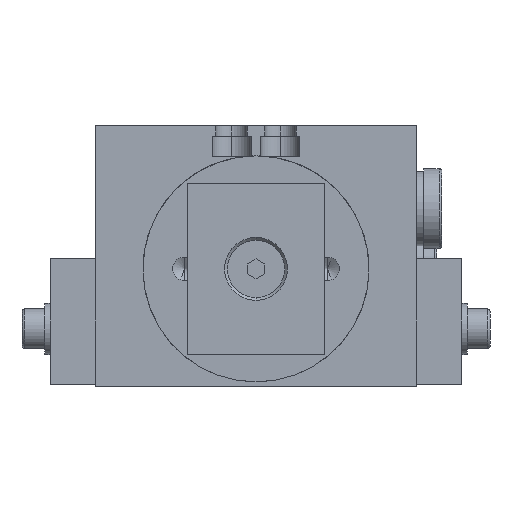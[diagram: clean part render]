
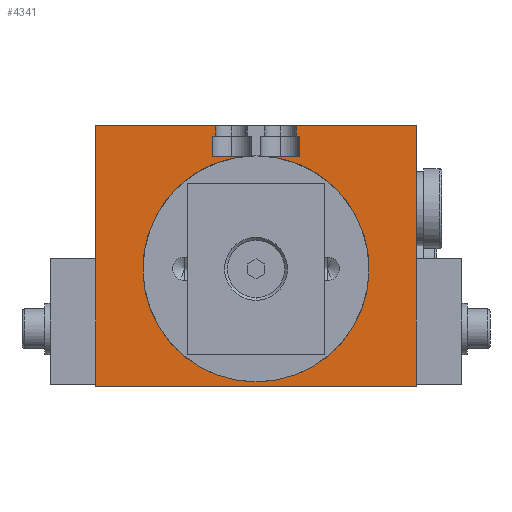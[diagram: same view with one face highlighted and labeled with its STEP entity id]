
A CAD part, front view. The second image highlights one B-rep face of the part: STEP entity #4341.
In plain terms, the highlighted planar face has unit normal (0, -1, 0).
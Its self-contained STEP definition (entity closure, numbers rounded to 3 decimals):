
#422 = CARTESIAN_POINT ( 'NONE',  ( 29.404, 0., 40.2 ) ) ;
#423 = DIRECTION ( 'NONE',  ( 0., 0., -1. ) ) ;
#424 = DIRECTION ( 'NONE',  ( 0., -1., 0. ) ) ;
#425 = CARTESIAN_POINT ( 'NONE',  ( 28., 0., 20.5 ) ) ;
#426 = AXIS2_PLACEMENT_3D ( 'NONE', #425, #424, #423 ) ;
#427 = CIRCLE ( 'NONE', #426, 19.75 ) ;
#1306 = DIRECTION ( 'NONE',  ( 0., 0., -1. ) ) ;
#1307 = VECTOR ( 'NONE', #1306, 1000. ) ;
#1308 = CARTESIAN_POINT ( 'NONE',  ( 0., 0., 45.5 ) ) ;
#1309 = LINE ( 'NONE', #1308, #1307 ) ;
#1398 = CARTESIAN_POINT ( 'NONE',  ( 56., 0., 0. ) ) ;
#1399 = CARTESIAN_POINT ( 'NONE',  ( 56., 0., 0.3 ) ) ;
#1416 = CARTESIAN_POINT ( 'NONE',  ( 28., 0., 0.75 ) ) ;
#1456 = CARTESIAN_POINT ( 'NONE',  ( 56., 0., 45.5 ) ) ;
#1468 = CARTESIAN_POINT ( 'NONE',  ( 56., 0., 22.3 ) ) ;
#1559 = DIRECTION ( 'NONE',  ( 0., 0., -1. ) ) ;
#1560 = VECTOR ( 'NONE', #1559, 1000. ) ;
#1561 = CARTESIAN_POINT ( 'NONE',  ( 56., 0., 45.5 ) ) ;
#1562 = LINE ( 'NONE', #1561, #1560 ) ;
#1621 = DIRECTION ( 'NONE',  ( 0., 0., -1. ) ) ;
#1622 = VECTOR ( 'NONE', #1621, 1000. ) ;
#1623 = CARTESIAN_POINT ( 'NONE',  ( 56., 0., 45.5 ) ) ;
#1624 = LINE ( 'NONE', #1623, #1622 ) ;
#1630 = DIRECTION ( 'NONE',  ( 0., 0., -1. ) ) ;
#1631 = VECTOR ( 'NONE', #1630, 1000. ) ;
#1632 = CARTESIAN_POINT ( 'NONE',  ( 56., 0., 45.5 ) ) ;
#1633 = LINE ( 'NONE', #1632, #1631 ) ;
#1665 = CARTESIAN_POINT ( 'NONE',  ( 26.596, 0., 40.2 ) ) ;
#1670 = DIRECTION ( 'NONE',  ( 0., 0., -1. ) ) ;
#1671 = VECTOR ( 'NONE', #1670, 1000. ) ;
#1672 = CARTESIAN_POINT ( 'NONE',  ( 0., 0., 45.5 ) ) ;
#1673 = LINE ( 'NONE', #1672, #1671 ) ;
#1681 = DIRECTION ( 'NONE',  ( 0., 0., -1. ) ) ;
#1682 = DIRECTION ( 'NONE',  ( 0., -1., 0. ) ) ;
#1683 = CARTESIAN_POINT ( 'NONE',  ( 28., 0., 20.5 ) ) ;
#1684 = AXIS2_PLACEMENT_3D ( 'NONE', #1683, #1682, #1681 ) ;
#1685 = CIRCLE ( 'NONE', #1684, 19.75 ) ;
#1690 = CARTESIAN_POINT ( 'NONE',  ( 35.65, 0., 40.2 ) ) ;
#1691 = DIRECTION ( 'NONE',  ( 0., 0., 1. ) ) ;
#1692 = VECTOR ( 'NONE', #1691, 1000. ) ;
#1693 = CARTESIAN_POINT ( 'NONE',  ( 35.65, 0., 40.2 ) ) ;
#1697 = LINE ( 'NONE', #1745, #1744 ) ;
#1725 = CARTESIAN_POINT ( 'NONE',  ( 20.35, 0., 43.7 ) ) ;
#1726 = DIRECTION ( 'NONE',  ( 1., 0., 0. ) ) ;
#1727 = VECTOR ( 'NONE', #1726, 1000. ) ;
#1728 = LINE ( 'NONE', #1693, #1692 ) ;
#1729 = CARTESIAN_POINT ( 'NONE',  ( 35.65, 0., 43.7 ) ) ;
#1730 = DIRECTION ( 'NONE',  ( -1., 0., 0. ) ) ;
#1731 = VECTOR ( 'NONE', #1730, 1000. ) ;
#1732 = CARTESIAN_POINT ( 'NONE',  ( 35.65, 0., 43.7 ) ) ;
#1733 = LINE ( 'NONE', #1732, #1731 ) ;
#1735 = DIRECTION ( 'NONE',  ( 0., 0., -1. ) ) ;
#1736 = VECTOR ( 'NONE', #1735, 1000. ) ;
#1737 = CARTESIAN_POINT ( 'NONE',  ( 21., 0., 45.5 ) ) ;
#1744 = VECTOR ( 'NONE', #1791, 1000. ) ;
#1745 = CARTESIAN_POINT ( 'NONE',  ( 20.35, 0., 40.2 ) ) ;
#1771 = CARTESIAN_POINT ( 'NONE',  ( 21., 0., 43.7 ) ) ;
#1772 = DIRECTION ( 'NONE',  ( -1., 0., 0. ) ) ;
#1773 = VECTOR ( 'NONE', #1772, 1000. ) ;
#1774 = CARTESIAN_POINT ( 'NONE',  ( 21., 0., 43.7 ) ) ;
#1775 = LINE ( 'NONE', #1774, #1773 ) ;
#1786 = DIRECTION ( 'NONE',  ( 1., 0., 0. ) ) ;
#1787 = VECTOR ( 'NONE', #1786, 1000. ) ;
#1788 = CARTESIAN_POINT ( 'NONE',  ( 28.85, 0., 40.2 ) ) ;
#1789 = LINE ( 'NONE', #1788, #1787 ) ;
#1790 = LINE ( 'NONE', #1737, #1736 ) ;
#1791 = DIRECTION ( 'NONE',  ( 1., 0., 0. ) ) ;
#1793 = DIRECTION ( 'NONE',  ( 0., 0., -1. ) ) ;
#1794 = VECTOR ( 'NONE', #1793, 1000. ) ;
#1795 = CARTESIAN_POINT ( 'NONE',  ( 20.35, 0., 43.7 ) ) ;
#1796 = LINE ( 'NONE', #1795, #1794 ) ;
#1797 = CARTESIAN_POINT ( 'NONE',  ( 20.35, 0., 40.2 ) ) ;
#1798 = DIRECTION ( 'NONE',  ( 0., 0., 1. ) ) ;
#1799 = DIRECTION ( 'NONE',  ( 0., 1., 0. ) ) ;
#1800 = CARTESIAN_POINT ( 'NONE',  ( 0., 0., 45.5 ) ) ;
#1801 = AXIS2_PLACEMENT_3D ( 'NONE', #1800, #1799, #1798 ) ;
#1802 = PLANE ( 'NONE',  #1801 ) ;
#1803 = FACE_OUTER_BOUND ( 'NONE', #4297, .T. ) ;
#1804 = DIRECTION ( 'NONE',  ( 1., 0., 0. ) ) ;
#1805 = VECTOR ( 'NONE', #1804, 1000. ) ;
#1806 = CARTESIAN_POINT ( 'NONE',  ( 0., 0., 0. ) ) ;
#1807 = LINE ( 'NONE', #1806, #1805 ) ;
#1817 = CARTESIAN_POINT ( 'NONE',  ( 35., 0., 45.5 ) ) ;
#1821 = CARTESIAN_POINT ( 'NONE',  ( 35., 0., 43.7 ) ) ;
#1822 = DIRECTION ( 'NONE',  ( 0., 0., 1. ) ) ;
#1823 = VECTOR ( 'NONE', #1822, 1000. ) ;
#1824 = CARTESIAN_POINT ( 'NONE',  ( 0., 0., 45.5 ) ) ;
#1825 = LINE ( 'NONE', #1824, #1727 ) ;
#1835 = CARTESIAN_POINT ( 'NONE',  ( 35., 0., 43.7 ) ) ;
#1836 = LINE ( 'NONE', #1835, #1823 ) ;
#1837 = DIRECTION ( 'NONE',  ( 1., 0., 0. ) ) ;
#1838 = VECTOR ( 'NONE', #1837, 1000. ) ;
#1839 = CARTESIAN_POINT ( 'NONE',  ( 0., 0., 45.5 ) ) ;
#1844 = LINE ( 'NONE', #1839, #1838 ) ;
#2337 = CARTESIAN_POINT ( 'NONE',  ( 0., 0., 22.3 ) ) ;
#2366 = LINE ( 'NONE', #2427, #2426 ) ;
#2367 = CARTESIAN_POINT ( 'NONE',  ( 0., 0., 0.3 ) ) ;
#2425 = DIRECTION ( 'NONE',  ( 0., 0., -1. ) ) ;
#2426 = VECTOR ( 'NONE', #2425, 1000. ) ;
#2427 = CARTESIAN_POINT ( 'NONE',  ( 0., 0., 45.5 ) ) ;
#2434 = CARTESIAN_POINT ( 'NONE',  ( 0., 0., 45.5 ) ) ;
#2444 = CARTESIAN_POINT ( 'NONE',  ( 0., 0., 0. ) ) ;
#2454 = CARTESIAN_POINT ( 'NONE',  ( 21., 0., 45.5 ) ) ;
#3237 = EDGE_CURVE ( 'NONE', #4098, #3240, #427, .T. ) ;
#3240 = VERTEX_POINT ( 'NONE', #422 ) ;
#4098 = VERTEX_POINT ( 'NONE', #1416 ) ;
#4101 = VERTEX_POINT ( 'NONE', #1468 ) ;
#4118 = VERTEX_POINT ( 'NONE', #1399 ) ;
#4119 = VERTEX_POINT ( 'NONE', #1398 ) ;
#4133 = VERTEX_POINT ( 'NONE', #1456 ) ;
#4165 = EDGE_CURVE ( 'NONE', #4408, #4406, #1309, .T. ) ;
#4224 = EDGE_CURVE ( 'NONE', #4282, #4098, #1685, .T. ) ;
#4225 = ORIENTED_EDGE ( 'NONE', *, *, #4291, .F. ) ;
#4243 = EDGE_CURVE ( 'NONE', #4118, #4119, #1633, .T. ) ;
#4248 = EDGE_CURVE ( 'NONE', #4133, #4101, #1624, .T. ) ;
#4274 = ORIENTED_EDGE ( 'NONE', *, *, #4243, .F. ) ;
#4275 = ORIENTED_EDGE ( 'NONE', *, *, #4276, .F. ) ;
#4276 = EDGE_CURVE ( 'NONE', #4101, #4118, #1562, .T. ) ;
#4278 = ORIENTED_EDGE ( 'NONE', *, *, #4279, .T. ) ;
#4279 = EDGE_CURVE ( 'NONE', #4406, #4432, #1673, .T. ) ;
#4282 = VERTEX_POINT ( 'NONE', #1665 ) ;
#4291 = EDGE_CURVE ( 'NONE', #4342, #4282, #1697, .T. ) ;
#4292 = EDGE_CURVE ( 'NONE', #3240, #4311, #1789, .T. ) ;
#4293 = ORIENTED_EDGE ( 'NONE', *, *, #3237, .F. ) ;
#4295 = ORIENTED_EDGE ( 'NONE', *, *, #4296, .F. ) ;
#4296 = EDGE_CURVE ( 'NONE', #4397, #4305, #1790, .T. ) ;
#4297 = EDGE_LOOP ( 'NONE', ( #4336, #4225, #4343, #4303, #4295, #4398, #4299, #4278, #4338, #4339, #4274, #4275, #4332, #4333, #4323, #4306, #4309, #4396, #4293 ) ) ;
#4298 = EDGE_CURVE ( 'NONE', #4408, #4397, #1825, .T. ) ;
#4299 = ORIENTED_EDGE ( 'NONE', *, *, #4165, .T. ) ;
#4300 = VERTEX_POINT ( 'NONE', #1725 ) ;
#4303 = ORIENTED_EDGE ( 'NONE', *, *, #4304, .F. ) ;
#4304 = EDGE_CURVE ( 'NONE', #4305, #4300, #1775, .T. ) ;
#4305 = VERTEX_POINT ( 'NONE', #1771 ) ;
#4306 = ORIENTED_EDGE ( 'NONE', *, *, #4307, .F. ) ;
#4307 = EDGE_CURVE ( 'NONE', #4308, #4325, #1733, .T. ) ;
#4308 = VERTEX_POINT ( 'NONE', #1729 ) ;
#4309 = ORIENTED_EDGE ( 'NONE', *, *, #4310, .F. ) ;
#4310 = EDGE_CURVE ( 'NONE', #4311, #4308, #1728, .T. ) ;
#4311 = VERTEX_POINT ( 'NONE', #1690 ) ;
#4322 = EDGE_CURVE ( 'NONE', #4334, #4133, #1844, .T. ) ;
#4323 = ORIENTED_EDGE ( 'NONE', *, *, #4324, .F. ) ;
#4324 = EDGE_CURVE ( 'NONE', #4325, #4334, #1836, .T. ) ;
#4325 = VERTEX_POINT ( 'NONE', #1821 ) ;
#4332 = ORIENTED_EDGE ( 'NONE', *, *, #4248, .F. ) ;
#4333 = ORIENTED_EDGE ( 'NONE', *, *, #4322, .F. ) ;
#4334 = VERTEX_POINT ( 'NONE', #1817 ) ;
#4336 = ORIENTED_EDGE ( 'NONE', *, *, #4224, .F. ) ;
#4338 = ORIENTED_EDGE ( 'NONE', *, *, #4433, .T. ) ;
#4339 = ORIENTED_EDGE ( 'NONE', *, *, #4340, .T. ) ;
#4340 = EDGE_CURVE ( 'NONE', #4419, #4119, #1807, .T. ) ;
#4341 = ADVANCED_FACE ( 'NONE', ( #1803 ), #1802, .F. ) ;
#4342 = VERTEX_POINT ( 'NONE', #1797 ) ;
#4343 = ORIENTED_EDGE ( 'NONE', *, *, #4344, .F. ) ;
#4344 = EDGE_CURVE ( 'NONE', #4300, #4342, #1796, .T. ) ;
#4396 = ORIENTED_EDGE ( 'NONE', *, *, #4292, .F. ) ;
#4397 = VERTEX_POINT ( 'NONE', #2454 ) ;
#4398 = ORIENTED_EDGE ( 'NONE', *, *, #4298, .F. ) ;
#4406 = VERTEX_POINT ( 'NONE', #2337 ) ;
#4408 = VERTEX_POINT ( 'NONE', #2434 ) ;
#4419 = VERTEX_POINT ( 'NONE', #2444 ) ;
#4432 = VERTEX_POINT ( 'NONE', #2367 ) ;
#4433 = EDGE_CURVE ( 'NONE', #4432, #4419, #2366, .T. ) ;
